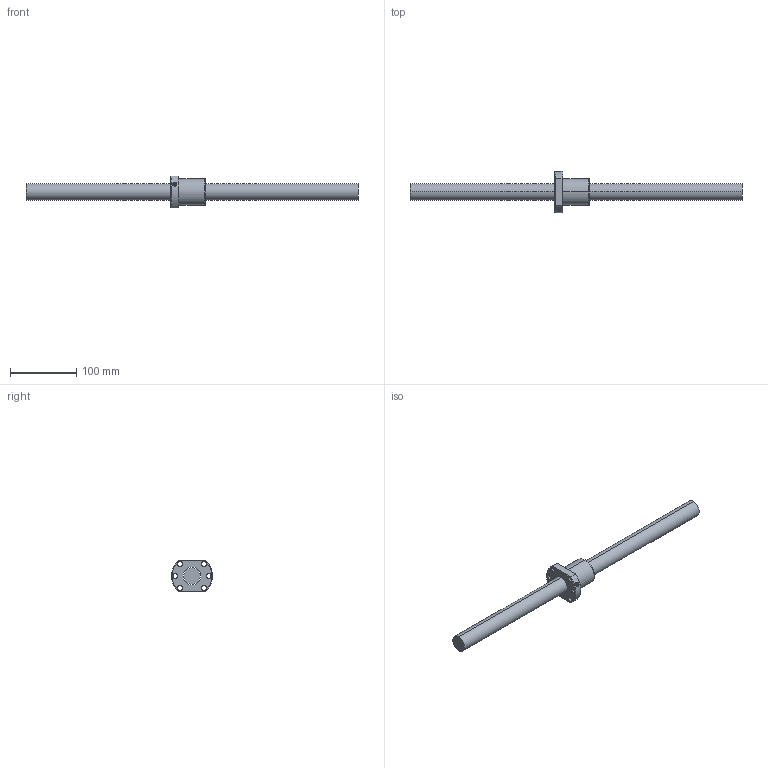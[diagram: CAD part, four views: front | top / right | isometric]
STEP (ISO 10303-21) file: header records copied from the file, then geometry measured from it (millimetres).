
FILE_DESCRIPTION (( 'STEP AP203' ), '1' );
FILE_NAME ('SFA2510-3.8.STEP', '2024-08-13T00:40:34', ( '' ), ( '' ), 'SwSTEP 2.0', 'SolidWorks 2022', '' );
FILE_SCHEMA (( 'CONFIG_CONTROL_DESIGN' ));
Length unit declared in the file: millimetre
Products named in the file (1): SFA2510-3.8
Bounding box: 500 x 61.8 x 48 mm (x, y, z)
Volume: 294431.2 mm3; surface area: 57118.9 mm2
Topology: 2 solids, 2 shells, 85 faces, 218 edges, 138 vertices
Faces by surface type: cylinder 35, cone 26, plane 12, bspline 6, torus 6
Entity records: 5507 total; most frequent: CARTESIAN_POINT 3430, ORIENTED_EDGE 436, DIRECTION 402, EDGE_CURVE 218, AXIS2_PLACEMENT_3D 164, VERTEX_POINT 138, EDGE_LOOP 102, FACE_OUTER_BOUND 85
